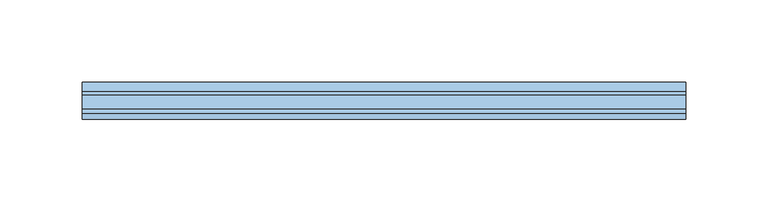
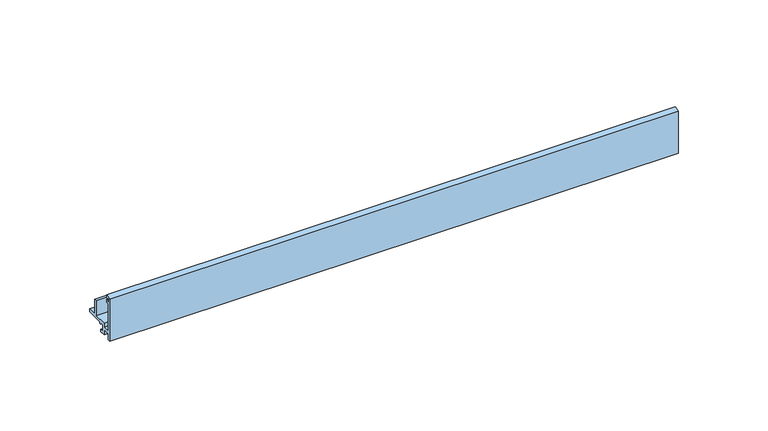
"""IFC4 building model written with IfcOpenShell, lengths in millimetres: window geometry, NLRS_30_WIN_aanslagprofiel_sh_gen_TOBA-JM : aanslagprofiel."""

from ifc_helpers import new_model, si_unit, frame, origin, place, context, project, spatial, polyline, outline, extrude, source, transform, mapped, element, save


def window_45f6263d(model_context):
    return source(origin(), model_context, "Body", "SweptSolid", [
        extrude(outline(polyline([(0.0, -5.5), (0.0, 23.0), (3.5, 24.0), (3.5, 22.0), (2.5, 22.0), (2.5, 22.8571429), (1.0, 22.4285715), (1.0, 20.4285715), (2.5, 20.0), (2.5, 20.8571429), (3.5, 20.8571429), (3.5, 18.8571429), (2.0, 18.8571429), (2.0, 0.0), (6.4724099, 0.0), (6.4724099, 3.0), (14.8724099, 3.0), (14.8724099, 13.0), (16.8724099, 13.0), (16.8724099, 3.0), (22.4724099, 3.0), (22.4724099, 1.0), (10.9724099, 1.0), (10.9724099, 0.0), (9.9724099, 0.0), (9.9724099, 1.0), (7.9724099, 1.0), (7.9724099, -3.5), (9.9724099, -3.5), (9.9724099, -5.0), (6.4724099, -5.0), (6.4724099, -1.5), (2.0, -1.5), (2.0, -5.5), (0.0, -5.5)])), frame((-183.0, 0.0, 0.0), z_axis=(1.0, 0.0, 0.0), x_axis=(0.0, 1.0, 0.0)), (0.0, 0.0, 1.0), 366.0),
    ])


if __name__ == "__main__":
    model = new_model("IFC4")
    model_context = context("Model", 3, world=origin())
    ifc_project = project(units=[si_unit("LENGTHUNIT", "METRE", prefix="MILLI")], contexts=[model_context])
    site = spatial("IfcSite", under=ifc_project)
    building = spatial("IfcBuilding", under=site)
    placement = place(None, origin())
    window_shape = window_45f6263d(model_context)
    element("IfcWindow", 1, ObjectType="NLRS_30_WIN_aanslagprofiel_sh_gen_TOBA-JM : aanslagprofiel", at=placement, inside=building, context=model_context, shape_type="MappedRepresentation", body=[
        mapped(window_shape, transform((0.0, 0.0, 0.0), x_axis=(1.0, 0.0, 0.0), y_axis=(0.0, 1.0, 0.0), z_axis=(0.0, 0.0, 1.0))),
    ])
    save(model, "model.ifc")
